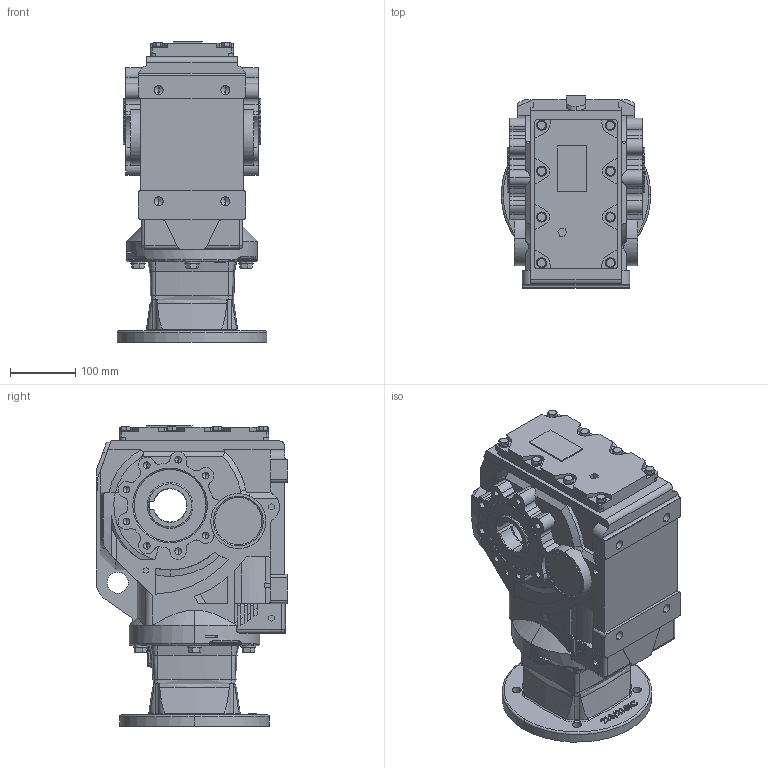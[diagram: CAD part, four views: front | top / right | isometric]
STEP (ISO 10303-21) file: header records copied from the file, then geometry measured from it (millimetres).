
FILE_DESCRIPTION (( 'STEP AP203' ), '1' );
FILE_NAME ('KAN77-213-5TC.STEP', '2022-04-09T02:19:09', ( 'user1' ), ( '' ), 'SwSTEP 2.0', 'SolidWorks 2012', '' );
FILE_SCHEMA (( 'CONFIG_CONTROL_DESIGN' ));
Length unit declared in the file: millimetre
Products named in the file (1): KAN77-213-5TC
Bounding box: 228.6 x 293 x 458.5 mm (x, y, z)
Volume: 15118279.6 mm3; surface area: 640875 mm2
Topology: 1 solids, 1 shells, 1301 faces, 3446 edges, 2198 vertices
Faces by surface type: plane 588, cylinder 407, cone 155, bspline 115, torus 34, sphere 2
Entity records: 49799 total; most frequent: CARTESIAN_POINT 18247, ORIENTED_EDGE 6804, DIRECTION 6215, EDGE_CURVE 3402, VERTEX_POINT 2198, AXIS2_PLACEMENT_3D 2172, LINE 1871, VECTOR 1871
